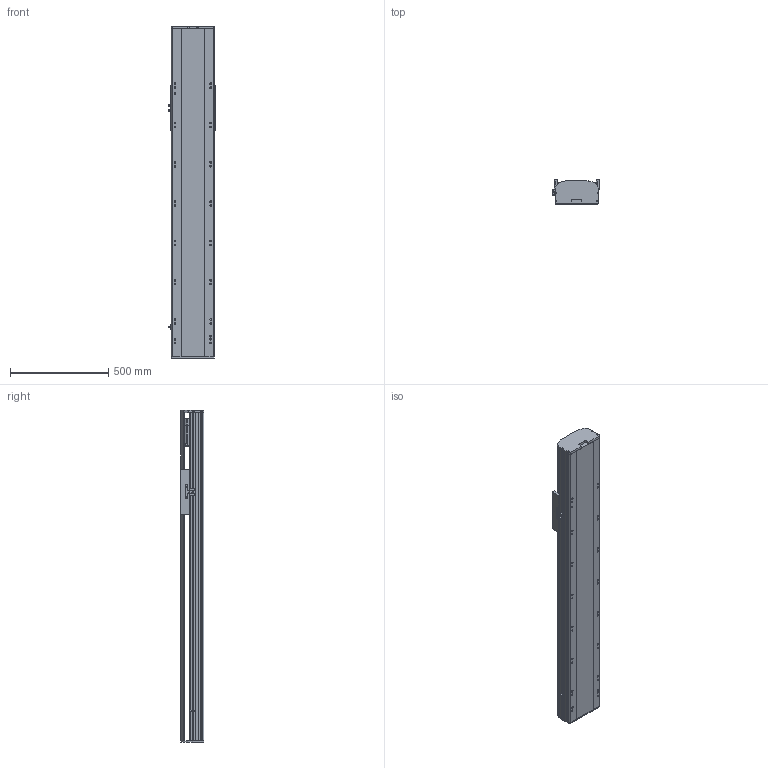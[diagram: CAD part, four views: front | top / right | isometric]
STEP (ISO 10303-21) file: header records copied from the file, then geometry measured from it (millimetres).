
FILE_DESCRIPTION (( 'STEP AP214' ), '1' );
FILE_NAME ('RTH22-XX-1100-B-M75-C4.STEP', '2025-10-24T10:33:00', ( 'Microsoft' ), ( 'Microsoft' ), 'SwSTEP 2.0', 'SolidWorks 2018', '' );
FILE_SCHEMA (( 'AUTOMOTIVE_DESIGN' ));
Length unit declared in the file: millimetre
Products named in the file (9): N_RTH22-GY-001耜裔^RTH22-XX-XX-B-M75-C4; N_RTH22-B-007奻裔^RTH22-XX-XX-B-M75-C4; N_RTH22-B-011菁釱^RTH22-XX-XX-B-M75-C4; N_RTH22-GY-013外置感应片^RTH22-XX-XX-B-M75-C4; N_RTH22-B-008萇儂啣^RTH22-XX-XX-B-M75-C4; N_OMRON EE-SX672 传感器^RTH22-XX-XX-B-M75-C4; N_RTH22-E-004-SFS25賑釱^RTH22-XX-XX-B-M75-C4; RTH22-XX-1100-B-M75-C4; N_750W萇儂^RTH22-XX-XX-B-M75-C4
Assembly tree (10 placements, depth 2):
  RTH22-XX-1100-B-M75-C4
    N_RTH22-B-011菁釱^RTH22-XX-XX-B-M75-C4
    N_RTH22-GY-001耜裔^RTH22-XX-XX-B-M75-C4
    N_750W萇儂^RTH22-XX-XX-B-M75-C4
    N_RTH22-B-008萇儂啣^RTH22-XX-XX-B-M75-C4
    N_RTH22-B-007奻裔^RTH22-XX-XX-B-M75-C4
    N_OMRON EE-SX672 传感器^RTH22-XX-XX-B-M75-C4  x3
    N_RTH22-GY-013外置感应片^RTH22-XX-XX-B-M75-C4
    N_RTH22-E-004-SFS25賑釱^RTH22-XX-XX-B-M75-C4
Bounding box: 238.5 x 122 x 1690 mm (x, y, z)
Volume: 22649220.8 mm3; surface area: 2329665.9 mm2
Topology: 10 solids, 10 shells, 1551 faces, 4250 edges, 2743 vertices
Faces by surface type: plane 756, cylinder 454, bspline 279, cone 62
Entity records: 38749 total; most frequent: CARTESIAN_POINT 11993, ORIENTED_EDGE 5468, DIRECTION 5152, EDGE_CURVE 2734, VERTEX_POINT 1779, AXIS2_PLACEMENT_3D 1742, VECTOR 1668, LINE 1668
